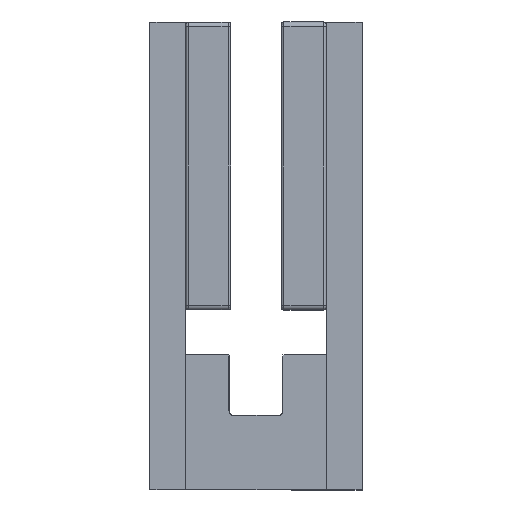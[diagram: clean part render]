
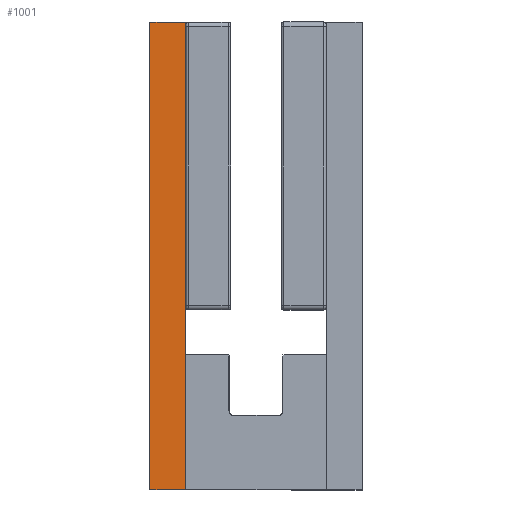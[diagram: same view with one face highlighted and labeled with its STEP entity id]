
A CAD part, left-side view. The second image highlights one B-rep face of the part: STEP entity #1001.
In plain terms, the highlighted planar face has unit normal (-1, 0, 0).
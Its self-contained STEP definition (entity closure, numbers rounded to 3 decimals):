
#1001 = ADVANCED_FACE( '', ( #2121 ), #2122, .F. );
#2121 = FACE_OUTER_BOUND( '', #3988, .T. );
#2122 = PLANE( '', #3989 );
#3988 = EDGE_LOOP( '', ( #7208, #7209, #7210, #7211 ) );
#3989 = AXIS2_PLACEMENT_3D( '', #7212, #7213, #7214 );
#7208 = ORIENTED_EDGE( '', *, *, #10388, .T. );
#7209 = ORIENTED_EDGE( '', *, *, #10389, .F. );
#7210 = ORIENTED_EDGE( '', *, *, #10390, .F. );
#7211 = ORIENTED_EDGE( '', *, *, #10391, .T. );
#7212 = CARTESIAN_POINT( '', ( -74.95, -2., 26. ) );
#7213 = DIRECTION( '', ( 1., 0., 0. ) );
#7214 = DIRECTION( '', ( 0., 1., 0. ) );
#10388 = EDGE_CURVE( '', #12068, #12069, #12070, .T. );
#10389 = EDGE_CURVE( '', #12071, #12069, #12072, .T. );
#10390 = EDGE_CURVE( '', #12073, #12071, #12074, .T. );
#10391 = EDGE_CURVE( '', #12073, #12068, #12075, .T. );
#12068 = VERTEX_POINT( '', #14624 );
#12069 = VERTEX_POINT( '', #14625 );
#12070 = LINE( '', #14626, #14627 );
#12071 = VERTEX_POINT( '', #14628 );
#12072 = LINE( '', #14629, #14630 );
#12073 = VERTEX_POINT( '', #14631 );
#12074 = LINE( '', #14632, #14633 );
#12075 = LINE( '', #14634, #14635 );
#14624 = CARTESIAN_POINT( '', ( -74.95, 2., 26. ) );
#14625 = CARTESIAN_POINT( '', ( -74.95, 2., -26. ) );
#14626 = CARTESIAN_POINT( '', ( -74.95, 2., 26. ) );
#14627 = VECTOR( '', #17960, 1000. );
#14628 = CARTESIAN_POINT( '', ( -74.95, -2., -26. ) );
#14629 = CARTESIAN_POINT( '', ( -74.95, -2., -26. ) );
#14630 = VECTOR( '', #17961, 1000. );
#14631 = CARTESIAN_POINT( '', ( -74.95, -2., 26. ) );
#14632 = CARTESIAN_POINT( '', ( -74.95, -2., 26. ) );
#14633 = VECTOR( '', #17962, 1000. );
#14634 = CARTESIAN_POINT( '', ( -74.95, -2., 26. ) );
#14635 = VECTOR( '', #17963, 1000. );
#17960 = DIRECTION( '', ( 0., 0., -1. ) );
#17961 = DIRECTION( '', ( 0., 1., 0. ) );
#17962 = DIRECTION( '', ( 0., 0., -1. ) );
#17963 = DIRECTION( '', ( 0., 1., 0. ) );
